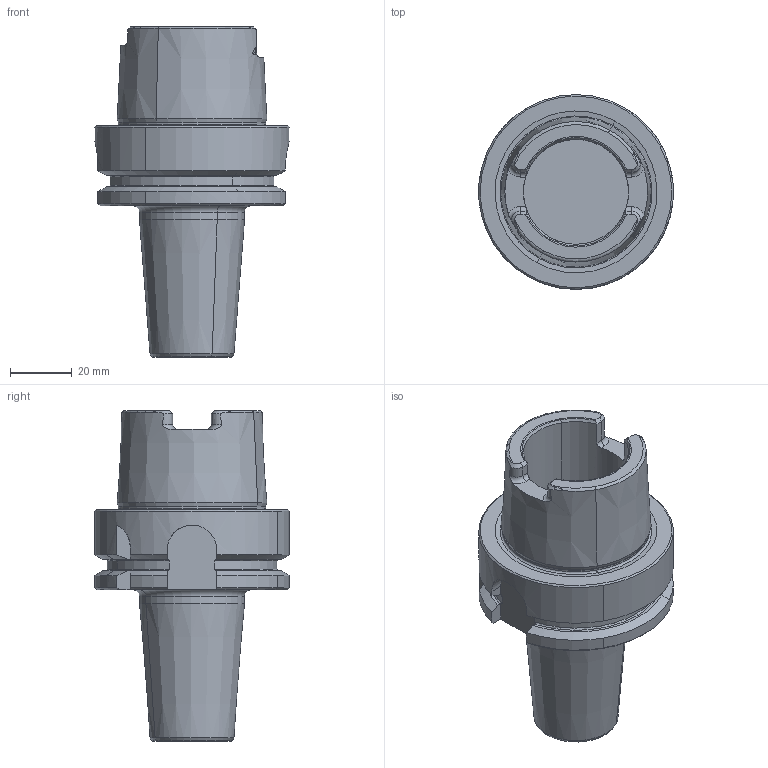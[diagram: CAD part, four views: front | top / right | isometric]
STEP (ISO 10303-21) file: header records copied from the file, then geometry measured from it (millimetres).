
FILE_DESCRIPTION(('CATIA V5 STEP','CAx-IF Rec.Pracs.--- Model Styling and Organization---1.2---2011-12-15'),'2;1');
FILE_NAME('\\nas01\drv1\utils\eitdev\rte\eit\transmagicconvert\db\out\4506029 L.stp','2014-04-02T04:55:08+00:00',('none'),('none'),'CATIA Version 5 Release 21 SP 5 (IN-10)','CATIA V5 STEP AP214','none');
FILE_SCHEMA(('AUTOMOTIVE_DESIGN { 1 0 10303 214 1 1 1 1 }'));
Length unit declared in the file: millimetre
Products named in the file (1): 60993636_0 Holder-Tool HSK A 63 SRKIN 16X75
Bounding box: 63 x 63 x 107 mm (x, y, z)
Volume: 126749.8 mm3; surface area: 25354.7 mm2
Topology: 1 solids, 1 shells, 136 faces, 349 edges, 218 vertices
Faces by surface type: plane 41, cone 35, cylinder 32, torus 28
Entity records: 4200 total; most frequent: CARTESIAN_POINT 1280, ORIENTED_EDGE 698, DIRECTION 432, EDGE_CURVE 349, AXIS2_PLACEMENT_3D 232, VERTEX_POINT 218, CIRCLE 151, EDGE_LOOP 139
